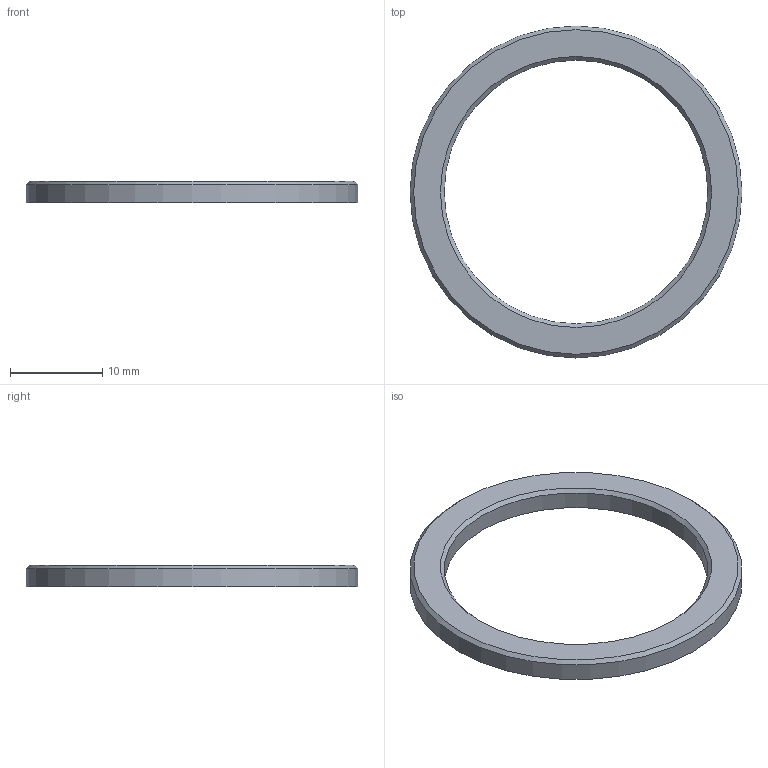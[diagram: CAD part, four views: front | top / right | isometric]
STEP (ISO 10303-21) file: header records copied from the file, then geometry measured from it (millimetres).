
FILE_DESCRIPTION(('Open CASCADE Model'),'2;1');
FILE_NAME('Open CASCADE Shape Model','2026-08-23T08:04:39',('Author'),( 'Open CASCADE'),'Open CASCADE STEP processor 7.9','Open CASCADE 7.9' ,'Unknown');
FILE_SCHEMA(('AUTOMOTIVE_DESIGN { 1 0 10303 214 1 1 1 1 }'));
Length unit declared in the file: millimetre
Products named in the file (2): =>[0:1:1:2]; COMPOUND
Assembly tree (1 placements, depth 2):
  =>[0:1:1:2]
    COMPOUND
Bounding box: 36 x 36 x 2.35 mm (x, y, z)
Volume: 866.1 mm3; surface area: 1180.3 mm2
Topology: 1 solids, 1 shells, 6 faces, 10 edges, 6 vertices
Faces by surface type: cylinder 2, cone 2, plane 2
Full cylindrical faces by diameter (mm): 28.6 x1, 36 x1
Entity records: 318 total; most frequent: CARTESIAN_POINT 48, DIRECTION 48, ORIENTED_EDGE 20, PCURVE 20, DEFINITIONAL_REPRESENTATION 20, LINE 16, VECTOR 16, AXIS2_PLACEMENT_3D 14
